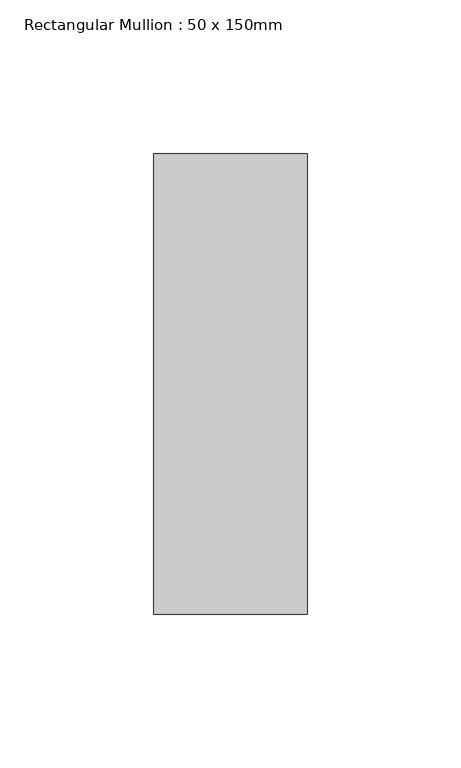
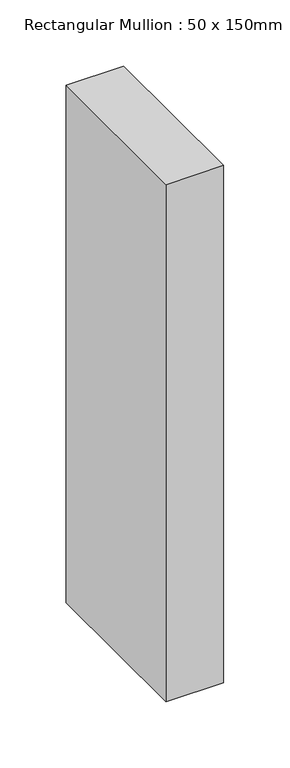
"""IFC4 building model written with IfcOpenShell, lengths in millimetres: member geometry, Rectangular Mullion : 50 x 150mm."""

import ifcopenshell
import ifcopenshell.guid

model = None  # the IFC model being written
_history = None  # IfcOwnerHistory: only IFC2X3 demands one
_inside = {}  # id of a spatial element -> (the spatial element, [elements in it])
_under = {}  # id of a project, library or spatial element -> (it, [spatial elements below it])
_declared = {}  # id of a project -> (the project, [libraries it declares])
_typed = {}  # id of a type object -> (the type object, [elements of that type])
_made_of = {}  # id of a material, layer set ... -> (it, [elements and type objects made of it])


def new_model(schema):
    """Start an empty IFC model of exactly this schema.

    Asked for "IFC4X3", IfcOpenShell would pick the latest addendum, in which some entities
    have other attributes; the version numbers below select the first issue.
    IFC2X3 requires an IfcOwnerHistory on every rooted entity: one is made here for all.
    """
    global model, _history
    if schema == "IFC4X3":
        model = ifcopenshell.file(schema_version=(4, 3, 0, 0))
    else:
        model = ifcopenshell.file(schema=schema)
    _inside.clear()
    _under.clear()
    _declared.clear()
    _typed.clear()
    _made_of.clear()
    _history = None
    if model.schema == "IFC2X3":
        org = make("IfcOrganization", Name="unknown")
        user = make(
            "IfcPersonAndOrganization",
            ThePerson=make("IfcPerson", FamilyName="unknown"),
            TheOrganization=org,
        )
        app = make(
            "IfcApplication",
            ApplicationDeveloper=org,
            Version="unknown",
            ApplicationFullName="unknown",
            ApplicationIdentifier="unknown",
        )
        _history = make(
            "IfcOwnerHistory",
            OwningUser=user,
            OwningApplication=app,
            ChangeAction="ADDED",
            CreationDate=0,
        )
    return model


def make(cls, **values):
    """One entity of the class cls with the attributes given. An attribute that is None is left unset."""
    return model.create_entity(
        cls, **{name: value for name, value in values.items() if value is not None}
    )


def rooted(cls, **values):
    """An entity with a GlobalId (a new one), such as an element, a storey or a relation."""
    return make(cls, GlobalId=ifcopenshell.guid.new(), OwnerHistory=_history, **values)


def si_unit(unit_type, name, prefix=None):
    """IfcSIUnit, for example si_unit("LENGTHUNIT", "METRE", prefix="MILLI")."""
    return make("IfcSIUnit", UnitType=unit_type, Prefix=prefix, Name=name)


def assignment(units):
    """IfcUnitAssignment: the units of a project."""
    return None if units is None else make("IfcUnitAssignment", Units=units)


def point(xyz):
    """IfcCartesianPoint."""
    return None if xyz is None else make("IfcCartesianPoint", Coordinates=xyz)


def direction(xyz):
    """IfcDirection."""
    return None if xyz is None else make("IfcDirection", DirectionRatios=xyz)


def frame(location, z_axis=None, x_axis=None):
    """IfcAxis2Placement3D, a coordinate frame: its origin and axes. An axis left out is left unset."""
    return make(
        "IfcAxis2Placement3D",
        Location=point(location),
        Axis=direction(z_axis),
        RefDirection=direction(x_axis),
    )


def origin():
    """The frame at (0, 0, 0) with its axes left unset."""
    return frame((0.0, 0.0, 0.0))


def place(relative_to, where):
    """IfcLocalPlacement: puts the frame where relative to a parent placement (None: the world)."""
    return make(
        "IfcLocalPlacement", PlacementRelTo=relative_to, RelativePlacement=where
    )


def context(
    kind, dimensions, precision=None, world=None, true_north=None, identifier=None
):
    """IfcGeometricRepresentationContext, for example the 3D "Model" context."""
    return make(
        "IfcGeometricRepresentationContext",
        ContextIdentifier=identifier,
        ContextType=kind,
        CoordinateSpaceDimension=dimensions,
        Precision=precision,
        WorldCoordinateSystem=world,
        TrueNorth=true_north,
    )


def project(units=None, contexts=None):
    """IfcProject with its units and contexts."""
    return rooted(
        "IfcProject",
        Name="project",
        RepresentationContexts=contexts,
        UnitsInContext=assignment(units),
    )


def spatial(cls, under=None, at=None, **own):
    """A site, building, storey or space (cls), placed at a placement, below another one or the project."""
    s = rooted(cls, ObjectPlacement=at, **own)
    if under is not None:
        _under.setdefault(under.id(), (under, []))[1].append(s)
    return s


def polyline(points):
    """IfcPolyline through the points."""
    return make("IfcPolyline", Points=[point(p) for p in points])


def outline(outer, holes=None, kind="AREA"):
    """IfcArbitraryClosedProfileDef: a profile drawn as a closed curve; with holes, ...WithVoids."""
    if holes is None:
        return make("IfcArbitraryClosedProfileDef", ProfileType=kind, OuterCurve=outer)
    return make(
        "IfcArbitraryProfileDefWithVoids",
        ProfileType=kind,
        OuterCurve=outer,
        InnerCurves=holes,
    )


def extrude(swept, where, along, depth):
    """IfcExtrudedAreaSolid: the profile swept, set in the frame where, extruded along a direction by depth."""
    return make(
        "IfcExtrudedAreaSolid",
        SweptArea=swept,
        Position=where,
        ExtrudedDirection=direction(along),
        Depth=depth,
    )


def shape(context_of_items, identifier, shape_type, items):
    """IfcShapeRepresentation: the items that make up one representation, for example the "Body"."""
    return make(
        "IfcShapeRepresentation",
        ContextOfItems=context_of_items,
        RepresentationIdentifier=identifier,
        RepresentationType=shape_type,
        Items=items,
    )


def source(mapping_origin, context_of_items, identifier, shape_type, items):
    """IfcRepresentationMap: a shape defined once, which mapped items show again and again."""
    return make(
        "IfcRepresentationMap",
        MappingOrigin=mapping_origin,
        MappedRepresentation=shape(context_of_items, identifier, shape_type, items),
    )


def transform(
    local_origin,
    x_axis=None,
    y_axis=None,
    z_axis=None,
    scale=None,
    scale2=None,
    scale3=None,
    uniform=True,
):
    """IfcCartesianTransformationOperator3D, or its non-uniform kind. x_axis, y_axis, z_axis: its Axis1, 2, 3."""
    if uniform:
        return make(
            "IfcCartesianTransformationOperator3D",
            Axis1=direction(x_axis),
            Axis2=direction(y_axis),
            LocalOrigin=point(local_origin),
            Scale=scale,
            Axis3=direction(z_axis),
        )
    return make(
        "IfcCartesianTransformationOperator3DnonUniform",
        Axis1=direction(x_axis),
        Axis2=direction(y_axis),
        LocalOrigin=point(local_origin),
        Scale=scale,
        Axis3=direction(z_axis),
        Scale2=scale2,
        Scale3=scale3,
    )


def mapped(mapping_source, mapping_target):
    """IfcMappedItem: shows the shape of a source again, moved by a transform."""
    return make(
        "IfcMappedItem", MappingSource=mapping_source, MappingTarget=mapping_target
    )


def made_of(thing, what):
    """Note that an element or type object is made of a material, layer set ...; save() writes the relation."""
    if what is not None:
        _made_of.setdefault(what.id(), (what, []))[1].append(thing)
    return thing


def element(
    cls,
    number,
    at=None,
    inside=None,
    cuts=None,
    type_object=None,
    material=None,
    context=None,
    identifier="Body",
    shape_type=None,
    held_by="IfcProductDefinitionShape",
    body=None,
    shapes=None,
    **own,
):
    """One element of the class cls, such as IfcWall. Its Tag is "e" and its number.

    at: its placement. inside: the storey or other place that contains it. cuts: it is an
    opening in that element (IfcRelVoidsElement). A single representation is given by context,
    identifier, shape_type and body (its items); several are given by shapes. held_by: the class
    of the entity that holds the representations. save() writes the other relations.
    """
    e = rooted(cls, Tag="e%d" % number, ObjectPlacement=at, **own)
    if body is not None:
        shapes = [shape(context, identifier, shape_type, body)]
    if shapes is not None:
        e.Representation = make(held_by, Representations=shapes)
    if inside is not None:
        _inside.setdefault(inside.id(), (inside, []))[1].append(e)
    if cuts is not None:
        rooted(
            "IfcRelVoidsElement", RelatingBuildingElement=cuts, RelatedOpeningElement=e
        )
    if type_object is not None:
        _typed.setdefault(type_object.id(), (type_object, []))[1].append(e)
    return made_of(e, material)


def aggregate(whole, parts):
    """IfcRelAggregates: a whole, such as a stair, and the parts it consists of."""
    return rooted("IfcRelAggregates", RelatingObject=whole, RelatedObjects=parts)


def save(model, path):
    """Write the relations noted so far, then the file.

    IfcRelAggregates (storeys below a building ...), IfcRelContainedInSpatialStructure (elements
    in a storey), IfcRelDefinesByType, IfcRelAssociatesMaterial and IfcRelDeclares: one each for
    every whole, place, type object, material and project.
    """
    for whole, parts in _under.values():
        aggregate(whole, parts)
    for where, things in _inside.values():
        rooted(
            "IfcRelContainedInSpatialStructure",
            RelatedElements=things,
            RelatingStructure=where,
        )
    for kind, things in _typed.values():
        rooted("IfcRelDefinesByType", RelatedObjects=things, RelatingType=kind)
    for what, things in _made_of.values():
        rooted("IfcRelAssociatesMaterial", RelatedObjects=things, RelatingMaterial=what)
    for by, libraries in _declared.values():
        rooted("IfcRelDeclares", RelatingContext=by, RelatedDefinitions=libraries)
    model.write(path)


def rectangular_mullion_50_x_150mm_42d59fea(model_context):
    return source(origin(), model_context, "Body", "SweptSolid", [
        extrude(outline(polyline([(0.0, 75.0), (0.0, -75.0), (-50.0, -75.0), (-50.0, 75.0), (0.0, 75.0)])), frame((0.0, 0.0, -475.0), z_axis=(0.0, 0.0, 1.0), x_axis=(1.0, 0.0, 0.0)), (0.0, 0.0, 1.0), 475.0),
    ])


if __name__ == "__main__":
    model = new_model("IFC4")
    model_context = context("Model", 3, world=origin())
    ifc_project = project(units=[si_unit("LENGTHUNIT", "METRE", prefix="MILLI")], contexts=[model_context])
    site = spatial("IfcSite", under=ifc_project)
    building = spatial("IfcBuilding", under=site)
    placement = place(None, origin())
    rectangular_mullion_50_x_150mm_shape = rectangular_mullion_50_x_150mm_42d59fea(model_context)
    element("IfcMember", 1, ObjectType="Rectangular Mullion : 50 x 150mm", at=placement, inside=building, context=model_context, shape_type="MappedRepresentation", body=[
        mapped(rectangular_mullion_50_x_150mm_shape, transform((0.0, 0.0, 0.0), x_axis=(1.0, 0.0, 0.0), y_axis=(0.0, 1.0, 0.0), z_axis=(0.0, 0.0, 1.0))),
    ])
    save(model, "model.ifc")
